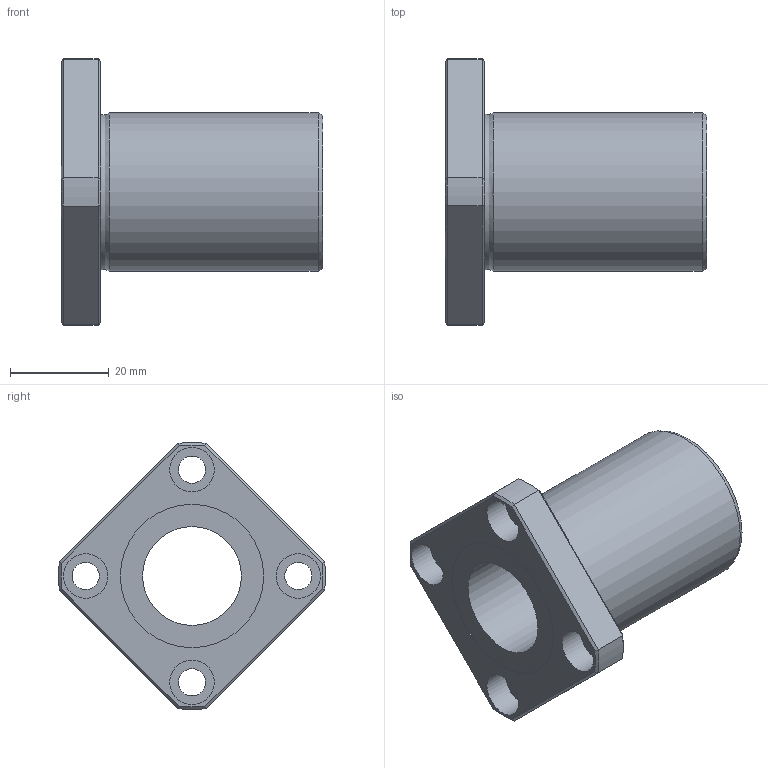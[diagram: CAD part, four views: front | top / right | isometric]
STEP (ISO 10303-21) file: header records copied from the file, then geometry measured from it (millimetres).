
FILE_DESCRIPTION((''),'2;1');
FILE_NAME('D:\製品 (図面)\カタログ用3D\メンテナンスフリー関連\STEP形式\LFK-MF\LFK20MF.stp','2010-06-01T15:52:21',('Tsuchiya'),(''),'Autodesk Inventor 10','Autodesk Inventor 10','');
FILE_SCHEMA(('AUTOMOTIVE_DESIGN { 1 0 10303 214 1 1 1 1 }'));
Length unit declared in the file: millimetre
Products named in the file (1): LFK20MF
Bounding box: 53 x 53.97 x 53.97 mm (x, y, z)
Volume: 31623.8 mm3; surface area: 12463.6 mm2
Topology: 1 solids, 1 shells, 47 faces, 96 edges, 58 vertices
Faces by surface type: plane 21, cylinder 16, cone 8, torus 1, bspline 1
Full cylindrical faces by diameter (mm): 5.5 x4, 9 x4, 20 x1, 29 x2, 32 x1
Entity records: 1275 total; most frequent: CARTESIAN_POINT 298, DIRECTION 202, ORIENTED_EDGE 164, AXIS2_PLACEMENT_3D 89, EDGE_CURVE 82, EDGE_LOOP 78, VERTEX_POINT 58, FACE_OUTER_BOUND 47
